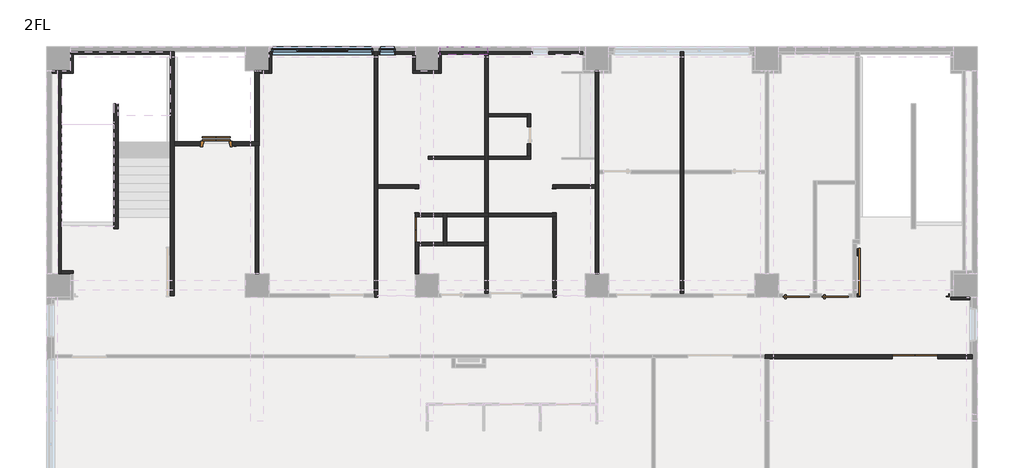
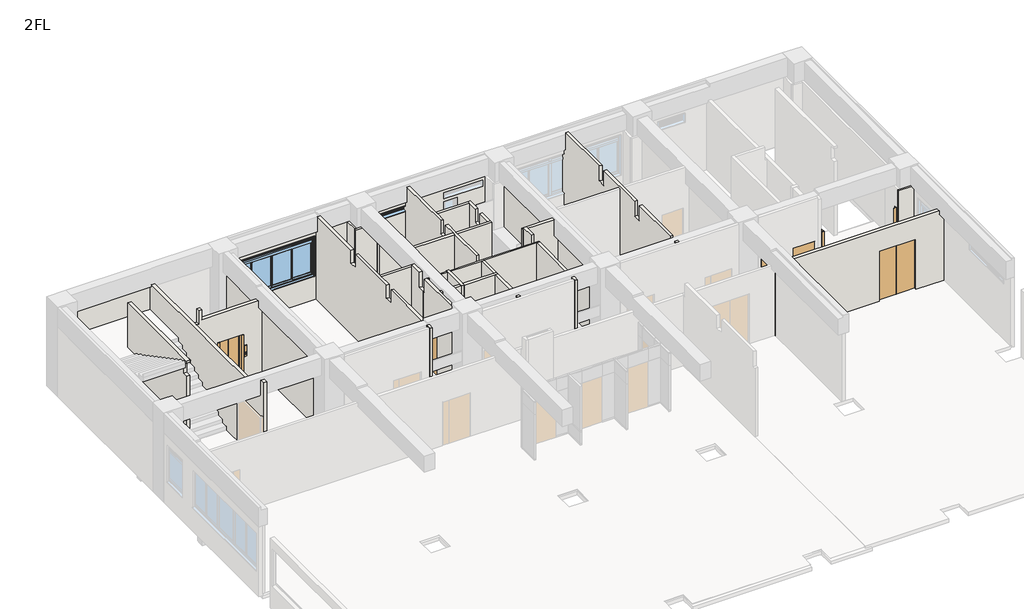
# One storey, part 3 of 7: 41 walls, 8 doors, 3 windows.
"""IFC4 building model written with IfcOpenShell, lengths in millimetres."""

from ifc_helpers import new_model, si_unit, frame, origin, place, context, project, spatial, polyline, outline, extrude, faceted_brep, transform, mapped, element, save
from components import door_9fa6e922, door_14d6dc4f, door_dd0264bc, door_f9cae23c, door_0812e9ce, sd13_d994cb3e, ag_07_7ad97628, aw5_d07c3508, aw9_efacfa99

model = new_model("IFC4")

# Units and contexts
model_context = context("Model", 3, world=origin())
ifc_project = project(units=[si_unit("LENGTHUNIT", "METRE", prefix="MILLI")], contexts=[model_context])

# Site, building, storey
site = spatial("IfcSite", under=ifc_project)
building = spatial("IfcBuilding", under=site)
storey = spatial("IfcBuildingStorey", under=building, Name="2FL", Elevation=4100.0)

# Doors
placement = place(None, origin())
door_shape = door_9fa6e922(model_context)
element("IfcDoor", 1, ObjectType="営_EVドア : EVドア", at=placement, inside=storey, context=model_context, shape_type="MappedRepresentation", body=[
    mapped(door_shape, transform((5560.0, 21000.0, 4100.0), x_axis=(1.0, 0.0, 0.0), y_axis=(0.0, 1.0, 0.0), z_axis=(0.0, 0.0, 1.0))),
])
door_2_shape = door_14d6dc4f(model_context)
element("IfcDoor", 2, ObjectType="営_三方枠 : S1_850*2000", at=placement, inside=storey, context=model_context, shape_type="MappedRepresentation", body=[
    mapped(door_2_shape, transform((12640.0, 18990.25, 4100.0), x_axis=(0.0, 1.0, 0.0), y_axis=(-1.0, 0.0, 0.0), z_axis=(0.0, 0.0, 1.0))),
])
element("IfcDoor", 3, ObjectType="営_三方枠 : S1_850*2000", at=placement, inside=storey, context=model_context, shape_type="MappedRepresentation", body=[
    mapped(door_2_shape, transform((17500.0, 18990.25, 4100.0), x_axis=(0.0, 1.0, 0.0), y_axis=(-1.0, 0.0, 0.0), z_axis=(0.0, 0.0, 1.0))),
])
door_3_shape = door_dd0264bc(model_context)
element("IfcDoor", 4, ObjectType="営_両開き扉 : SD3b 1600*2300", at=placement, inside=storey, context=model_context, shape_type="MappedRepresentation", body=[
    mapped(door_3_shape, transform((30235.0, 13485.0, 4100.0), x_axis=(1.0, 0.0, 0.0), y_axis=(0.0, 1.0, 0.0), z_axis=(0.0, 0.0, 1.0))),
])
door_4_shape = door_f9cae23c(model_context)
element("IfcDoor", 5, ObjectType="営_両開き扉 : LD5 900*2000", at=placement, inside=storey, context=model_context, shape_type="MappedRepresentation", body=[
    mapped(door_4_shape, transform((12640.0, 17975.0, 4100.0), x_axis=(0.0, 1.0, 0.0), y_axis=(-1.0, 0.0, 0.0), z_axis=(0.0, 0.0, 1.0))),
])
door_5_shape = door_0812e9ce(model_context)
element("IfcDoor", 6, ObjectType="営_片開き扉 : LD3 950*2000", at=placement, inside=storey, context=model_context, shape_type="MappedRepresentation", body=[
    mapped(door_5_shape, transform((27410.0, 15640.0, 4100.0), x_axis=(1.0, 0.0, 0.0), y_axis=(0.0, 1.0, 0.0), z_axis=(0.0, 0.0, 1.0))),
])
element("IfcDoor", 7, ObjectType="営_片開き扉 : SD4b 950*2000", at=placement, inside=storey, context=model_context, shape_type="MappedRepresentation", body=[
    mapped(door_5_shape, transform((26030.0, 15640.0, 4100.0), x_axis=(1.0, 0.0, 0.0), y_axis=(0.0, 1.0, 0.0), z_axis=(0.0, 0.0, 1.0))),
])
sd13_shape = sd13_d994cb3e(model_context)
element("IfcDoor", 8, ObjectType="営_随閉扉 B階段 2～4F : SD13", at=placement, inside=storey, context=model_context, shape_type="MappedRepresentation", body=[
    mapped(sd13_shape, transform((28100.0, 15640.0, 4100.0), x_axis=(0.0, -1.0, 0.0), y_axis=(1.0, 0.0, 0.0), z_axis=(0.0, 0.0, 1.0))),
])

# Walls
element("IfcWall", 9, ObjectType="(内壁)150_RC", at=placement, inside=storey, context=model_context, shape_type="Brep", body=[
    faceted_brep([(29435.0, 13560.0, 6400.0), (29435.0, 13560.0, 4100.0), (24925.0, 13560.0, 4100.0), (24925.0, 13560.0, 7200.0), (25225.0, 13560.0, 7200.0), (25225.0, 13560.0, 7350.0), (32050.0, 13560.0, 7350.0), (32050.0, 13560.0, 7200.0), (32160.0, 13560.0, 7200.0), (32250.0, 13560.0, 7200.0), (32250.0, 13560.0, 4100.0), (32160.0, 13560.0, 4100.0), (31035.0, 13560.0, 4100.0), (31035.0, 13560.0, 6400.0), (29435.0, 13410.0, 4100.0), (29435.0, 13410.0, 6400.0), (31035.0, 13410.0, 6400.0), (31035.0, 13410.0, 4100.0), (32250.0, 13410.0, 4100.0), (32250.0, 13410.0, 7200.0), (32050.0, 13410.0, 7200.0), (32050.0, 13410.0, 7350.0), (25225.0, 13410.0, 7350.0), (25225.0, 13410.0, 7200.0), (25075.0, 13410.0, 7200.0), (24925.0, 13410.0, 7200.0), (24925.0, 13410.0, 4100.0), (25075.0, 13410.0, 4100.0), (24925.0, 13440.0, 4100.0), (24925.0, 13440.0, 7200.0)], [[[0, 1, 2, 3, 4, 5, 6, 7, 8, 9, 10, 11, 12, 13]], [[14, 15, 16, 17, 18, 19, 20, 21, 22, 23, 24, 25, 26, 27]], [[10, 18, 17, 12, 11]], [[26, 28, 2, 1, 14, 27]], [[2, 28, 26, 25, 29, 3]], [[1, 0, 15, 14]], [[13, 12, 17, 16]], [[0, 13, 16, 15]], [[4, 23, 22, 5]], [[23, 4, 3, 29, 25, 24]], [[7, 20, 19, 9, 8]], [[20, 7, 6, 21]], [[6, 5, 22, 21]], [[18, 10, 9, 19]]]),
])
element("IfcWall", 10, ObjectType="(内壁)W4", at=placement, inside=storey, context=model_context, shape_type="Brep", body=[
    faceted_brep([(18940.0, 23580.0, 4100.0), (18940.0, 23490.0, 4100.0), (18940.0, 19550.0, 4100.0), (18940.0, 19430.0, 4100.0), (18940.0, 16420.0, 4100.0), (18940.0, 16420.0, 7200.0), (18940.0, 19430.0, 7200.0), (18940.0, 19550.0, 7200.0), (18940.0, 23490.0, 7200.0), (18940.0, 23580.0, 7200.0), (19060.0, 16420.0, 4100.0), (19060.0, 19940.0, 4100.0), (19060.0, 20060.0, 4100.0), (19060.0, 23490.0, 4100.0), (19060.0, 23580.0, 4100.0), (19060.0, 23580.0, 7200.0), (19060.0, 23490.0, 7200.0), (19060.0, 20060.0, 7200.0), (19060.0, 19940.0, 7200.0), (19060.0, 16420.0, 7200.0)], [[[0, 1, 2, 3, 4, 5, 6, 7, 8, 9]], [[10, 11, 12, 13, 14, 15, 16, 17, 18, 19]], [[10, 4, 3, 2, 1, 0, 14, 13, 12, 11]], [[4, 10, 19, 5]], [[14, 0, 9, 15]], [[9, 8, 7, 6, 5, 19, 18, 17, 16, 15]]]),
])
element("IfcWall", 11, ObjectType="(内壁)W3", at=placement, inside=storey, context=model_context, shape_type="Brep", body=[
    faceted_brep([(21940.0, 24250.0, 4100.0), (21940.0, 20060.0, 4100.0), (21940.0, 19940.0, 4100.0), (21940.0, 15700.0, 4100.0), (21940.0, 15700.0, 8040.0), (21940.0, 15825.0, 8040.0), (21940.0, 15825.0, 7250.0), (21940.0, 16175.0, 7250.0), (21940.0, 16175.0, 8040.0), (21940.0, 18495.0, 8040.0), (21940.0, 18495.0, 7350.0), (21940.0, 18845.0, 7350.0), (21940.0, 18845.0, 8040.0), (21940.0, 21165.0, 8040.0), (21940.0, 21165.0, 7350.0), (21940.0, 21515.0, 7350.0), (21940.0, 21515.0, 8040.0), (21940.0, 24050.0, 8040.0), (21940.0, 24050.0, 7250.0), (21940.0, 24250.0, 7250.0), (22060.0, 15700.0, 4100.0), (22060.0, 19940.0, 4100.0), (22060.0, 20060.0, 4100.0), (22060.0, 24250.0, 4100.0), (22060.0, 24250.0, 7250.0), (22060.0, 24050.0, 7250.0), (22060.0, 24050.0, 8040.0), (22060.0, 21515.0, 8040.0), (22060.0, 21515.0, 7350.0), (22060.0, 21165.0, 7350.0), (22060.0, 21165.0, 8040.0), (22060.0, 18845.0, 8040.0), (22060.0, 18845.0, 7350.0), (22060.0, 18495.0, 7350.0), (22060.0, 18495.0, 8040.0), (22060.0, 16175.0, 8040.0), (22060.0, 16175.0, 7250.0), (22060.0, 15825.0, 7250.0), (22060.0, 15825.0, 8040.0), (22060.0, 15700.0, 8040.0)], [[[0, 1, 2, 3, 4, 5, 6, 7, 8, 9, 10, 11, 12, 13, 14, 15, 16, 17, 18, 19]], [[20, 21, 22, 23, 24, 25, 26, 27, 28, 29, 30, 31, 32, 33, 34, 35, 36, 37, 38, 39]], [[3, 2, 1, 0, 23, 22, 21, 20]], [[4, 39, 38, 5]], [[8, 35, 34, 9]], [[26, 17, 16, 27]], [[12, 31, 30, 13]], [[23, 0, 19, 24]], [[4, 3, 20, 39]], [[37, 6, 5, 38]], [[6, 37, 36, 7]], [[7, 36, 35, 8]], [[25, 18, 17, 26]], [[18, 25, 24, 19]], [[33, 10, 9, 34]], [[10, 33, 32, 11]], [[11, 32, 31, 12]], [[29, 14, 13, 30]], [[14, 29, 28, 15]], [[15, 28, 27, 16]]]),
])
element("IfcWall", 12, ObjectType="(内壁)150_RC", at=placement, inside=storey, context=model_context, shape_type="Brep", body=[
    faceted_brep([(3925.0, 24250.0, 4100.0), (3925.0, 15635.0, 4100.0), (3925.0, 15635.0, 7950.0), (3925.0, 15825.0, 7950.0), (3925.0, 15825.0, 7350.0), (3925.0, 24050.0, 7350.0), (3925.0, 24050.0, 7250.0), (3925.0, 24250.0, 7250.0), (4075.0, 15635.0, 4100.0), (4075.0, 20925.0, 4100.0), (4075.0, 21075.0, 4100.0), (4075.0, 24250.0, 4100.0), (4075.0, 24250.0, 7250.0), (4075.0, 24050.0, 7250.0), (4075.0, 24050.0, 7350.0), (4075.0, 21075.0, 7350.0), (4075.0, 20925.0, 7350.0), (4075.0, 15825.0, 7350.0), (4075.0, 15825.0, 7950.0), (4075.0, 15635.0, 7950.0)], [[[0, 1, 2, 3, 4, 5, 6, 7]], [[8, 9, 10, 11, 12, 13, 14, 15, 16, 17, 18, 19]], [[1, 0, 11, 10, 9, 8]], [[2, 1, 8, 19]], [[2, 19, 18, 3]], [[11, 0, 7, 12]], [[13, 6, 5, 14]], [[6, 13, 12, 7]], [[4, 17, 16, 15, 14, 5]], [[17, 4, 3, 18]]]),
])
element("IfcWall", 13, ObjectType="(内壁)150_RC", at=placement, inside=storey, context=model_context, shape_type="Brep", body=[
    faceted_brep([(7075.0, 20925.0, 7200.0), (7060.0, 20925.0, 7200.0), (6940.0, 20925.0, 7200.0), (6775.0, 20925.0, 7200.0), (6775.0, 20925.0, 7500.0), (4306.3, 20925.0, 7500.0), (4306.3, 20925.0, 7950.0), (4175.0, 20925.0, 7950.0), (4175.0, 20925.0, 7350.0), (4075.0, 20925.0, 7350.0), (4075.0, 20925.0, 4100.0), (5000.0, 20925.0, 4100.0), (5000.0, 20925.0, 6200.0), (6120.0, 20925.0, 6200.0), (6120.0, 20925.0, 4100.0), (6940.0, 20925.0, 4100.0), (7060.0, 20925.0, 4100.0), (7075.0, 20925.0, 4100.0), (6775.0, 21075.0, 7200.0), (6925.0, 21075.0, 7200.0), (7075.0, 21075.0, 7200.0), (7075.0, 21075.0, 4100.0), (6925.0, 21075.0, 4100.0), (6120.0, 21075.0, 4100.0), (6120.0, 21075.0, 6200.0), (5000.0, 21075.0, 6200.0), (5000.0, 21075.0, 4100.0), (4075.0, 21075.0, 4100.0), (4075.0, 21075.0, 7350.0), (4175.0, 21075.0, 7350.0), (4175.0, 21075.0, 7950.0), (4306.3, 21075.0, 7950.0), (4306.3, 21075.0, 7500.0), (6775.0, 21075.0, 7500.0)], [[[0, 1, 2, 3, 4, 5, 6, 7, 8, 9, 10, 11, 12, 13, 14, 15, 16, 17]], [[18, 19, 20, 21, 22, 23, 24, 25, 26, 27, 28, 29, 30, 31, 32, 33]], [[21, 17, 16, 15, 14, 23, 22]], [[10, 27, 26, 11]], [[6, 31, 30, 7]], [[17, 21, 20, 0]], [[27, 10, 9, 28]], [[18, 3, 2, 1, 0, 20, 19]], [[3, 18, 33, 4]], [[26, 25, 12, 11]], [[24, 23, 14, 13]], [[25, 24, 13, 12]], [[5, 32, 31, 6]], [[32, 5, 4, 33]], [[29, 8, 7, 30]], [[8, 29, 28, 9]]]),
])
element("IfcWall", 14, ObjectType="(内壁)150_RC", at=placement, inside=storey, context=model_context, shape_type="Brep", body=[
    faceted_brep([(7075.0, 21075.0, 4100.0), (7075.0, 23490.0, 4100.0), (7075.0, 23580.0, 4100.0), (7075.0, 23580.0, 7200.0), (7075.0, 23490.0, 7200.0), (7075.0, 21075.0, 7200.0), (6925.0, 23580.0, 4100.0), (6925.0, 21075.0, 4100.0), (6925.0, 21075.0, 7200.0), (6925.0, 23580.0, 7200.0)], [[[0, 1, 2, 3, 4, 5]], [[6, 7, 8, 9]], [[0, 7, 6, 2, 1]], [[7, 0, 5, 8]], [[2, 6, 9, 3]], [[5, 4, 3, 9, 8]]]),
])
element("IfcWall", 15, ObjectType="(内壁)W4", at=placement, inside=storey, context=model_context, shape_type="SweptSolid", body=[
    extrude(outline(polyline([(6940.0, 20925.0), (7060.0, 20925.0), (7060.0, 16420.0), (6940.0, 16420.0), (6940.0, 20925.0)])), frame((0.0, 0.0, 4100.0), z_axis=(0.0, 0.0, 1.0), x_axis=(1.0, 0.0, 0.0)), (0.0, 0.0, 1.0), 3100.0),
])
element("IfcWall", 16, ObjectType="(内壁)W4", at=placement, inside=storey, context=model_context, shape_type="Brep", body=[
    faceted_brep([(11140.0, 24250.0, 4100.0), (11140.0, 15700.0, 4100.0), (11140.0, 15580.0, 4100.0), (11140.0, 15580.0, 7950.0), (11140.0, 15700.0, 7950.0), (11140.0, 15825.0, 7950.0), (11140.0, 15825.0, 7250.0), (11140.0, 16175.0, 7250.0), (11140.0, 16175.0, 7950.0), (11140.0, 18495.0, 7950.0), (11140.0, 18495.0, 7350.0), (11140.0, 18845.0, 7350.0), (11140.0, 18845.0, 7950.0), (11140.0, 21165.0, 7950.0), (11140.0, 21165.0, 7350.0), (11140.0, 21515.0, 7350.0), (11140.0, 21515.0, 7950.0), (11140.0, 24050.0, 7950.0), (11140.0, 24050.0, 7250.0), (11140.0, 24250.0, 7250.0), (11260.0, 15580.0, 4100.0), (11260.0, 19430.0, 4100.0), (11260.0, 19550.0, 4100.0), (11260.0, 24250.0, 4100.0), (11260.0, 24250.0, 7250.0), (11260.0, 24050.0, 7250.0), (11260.0, 24050.0, 7950.0), (11260.0, 21515.0, 7950.0), (11260.0, 21515.0, 7350.0), (11260.0, 21165.0, 7350.0), (11260.0, 21165.0, 7950.0), (11260.0, 19550.0, 7950.0), (11260.0, 19430.0, 7950.0), (11260.0, 18845.0, 7950.0), (11260.0, 18845.0, 7350.0), (11260.0, 18495.0, 7350.0), (11260.0, 18495.0, 7950.0), (11260.0, 16175.0, 7950.0), (11260.0, 16175.0, 7250.0), (11260.0, 15825.0, 7250.0), (11260.0, 15825.0, 7950.0), (11260.0, 15580.0, 7950.0), (11200.0, 15825.0, 7950.0), (11200.0, 16175.0, 7950.0), (11200.0, 18495.0, 7950.0), (11200.0, 24050.0, 7950.0), (11200.0, 21515.0, 7950.0), (11200.0, 18845.0, 7950.0), (11200.0, 21165.0, 7950.0)], [[[0, 1, 2, 3, 4, 5, 6, 7, 8, 9, 10, 11, 12, 13, 14, 15, 16, 17, 18, 19]], [[20, 21, 22, 23, 24, 25, 26, 27, 28, 29, 30, 31, 32, 33, 34, 35, 36, 37, 38, 39, 40, 41]], [[2, 1, 0, 23, 22, 21, 20]], [[5, 4, 3, 41, 40, 42]], [[8, 43, 37, 36, 44, 9]], [[26, 45, 17, 16, 46, 27]], [[12, 47, 33, 32, 31, 30, 48, 13]], [[23, 0, 19, 24]], [[39, 6, 5, 42, 40]], [[6, 39, 38, 7]], [[7, 38, 37, 43, 8]], [[25, 18, 17, 45, 26]], [[18, 25, 24, 19]], [[35, 10, 9, 44, 36]], [[10, 35, 34, 11]], [[11, 34, 33, 47, 12]], [[29, 14, 13, 48, 30]], [[14, 29, 28, 15]], [[15, 28, 27, 46, 16]], [[3, 2, 20, 41]]]),
])
element("IfcWall", 17, ObjectType="(内壁)W4", at=placement, inside=storey, context=model_context, shape_type="Brep", body=[
    faceted_brep([(15040.0, 24250.0, 4100.0), (15040.0, 20570.0, 4100.0), (15040.0, 20450.0, 4100.0), (15040.0, 18550.0, 4100.0), (15040.0, 18550.0, 7350.0), (15040.0, 18845.0, 7350.0), (15040.0, 18845.0, 7950.0), (15040.0, 20450.0, 7950.0), (15040.0, 20570.0, 7950.0), (15040.0, 21165.0, 7950.0), (15040.0, 21165.0, 7350.0), (15040.0, 21515.0, 7350.0), (15040.0, 21515.0, 7950.0), (15040.0, 24050.0, 7950.0), (15040.0, 24050.0, 7250.0), (15040.0, 24250.0, 7250.0), (15160.0, 18550.0, 4100.0), (15160.0, 20450.0, 4100.0), (15160.0, 20570.0, 4100.0), (15160.0, 21950.0, 4100.0), (15160.0, 22070.0, 4100.0), (15160.0, 24250.0, 4100.0), (15160.0, 24250.0, 7250.0), (15160.0, 24050.0, 7250.0), (15160.0, 24050.0, 7950.0), (15160.0, 22070.0, 7950.0), (15160.0, 21950.0, 7950.0), (15160.0, 21515.0, 7950.0), (15160.0, 21515.0, 7350.0), (15160.0, 21165.0, 7350.0), (15160.0, 21165.0, 7950.0), (15160.0, 20570.0, 7950.0), (15160.0, 20450.0, 7950.0), (15160.0, 18845.0, 7950.0), (15160.0, 18845.0, 7350.0), (15160.0, 18550.0, 7350.0)], [[[0, 1, 2, 3, 4, 5, 6, 7, 8, 9, 10, 11, 12, 13, 14, 15]], [[16, 17, 18, 19, 20, 21, 22, 23, 24, 25, 26, 27, 28, 29, 30, 31, 32, 33, 34, 35]], [[3, 2, 1, 0, 21, 20, 19, 18, 17, 16]], [[24, 13, 12, 27, 26, 25]], [[6, 33, 32, 31, 30, 9, 8, 7]], [[21, 0, 15, 22]], [[23, 14, 13, 24]], [[14, 23, 22, 15]], [[34, 5, 4, 35]], [[5, 34, 33, 6]], [[29, 10, 9, 30]], [[10, 29, 28, 11]], [[11, 28, 27, 12]], [[3, 16, 35, 4]]]),
])
element("IfcWall", 18, ObjectType="(内壁)W4", at=placement, inside=storey, context=model_context, shape_type="Brep", body=[
    faceted_brep([(12700.0, 17525.0, 4100.0), (12700.0, 17525.0, 6100.0), (12700.0, 18425.0, 6100.0), (12700.0, 18425.0, 4100.0), (12700.0, 18430.0, 4100.0), (12700.0, 18550.0, 4100.0), (12700.0, 18550.0, 7350.0), (12700.0, 18495.0, 7350.0), (12700.0, 18495.0, 7950.0), (12700.0, 18430.0, 7950.0), (12700.0, 17520.0, 7950.0), (12700.0, 17400.0, 7950.0), (12700.0, 16420.0, 7950.0), (12700.0, 16420.0, 4100.0), (12700.0, 17400.0, 4100.0), (12700.0, 17520.0, 4100.0), (12580.0, 17525.0, 6100.0), (12580.0, 17525.0, 4100.0), (12580.0, 16420.0, 4100.0), (12580.0, 16420.0, 7950.0), (12580.0, 18495.0, 7950.0), (12580.0, 18495.0, 7350.0), (12580.0, 18550.0, 7350.0), (12580.0, 18550.0, 4100.0), (12580.0, 18425.0, 4100.0), (12580.0, 18425.0, 6100.0)], [[[0, 1, 2, 3, 4, 5, 6, 7, 8, 9, 10, 11, 12, 13, 14, 15]], [[16, 17, 18, 19, 20, 21, 22, 23, 24, 25]], [[17, 0, 15, 14, 13, 18]], [[23, 5, 4, 3, 24]], [[19, 12, 11, 10, 9, 8, 20]], [[5, 23, 22, 6]], [[17, 16, 1, 0]], [[25, 24, 3, 2]], [[16, 25, 2, 1]], [[13, 12, 19, 18]], [[7, 21, 20, 8]], [[21, 7, 6, 22]]]),
])
element("IfcWall", 19, ObjectType="(内壁)W4", at=placement, inside=storey, context=model_context, shape_type="Brep", body=[
    faceted_brep([(12700.0, 18430.0, 4100.0), (13570.0, 18430.0, 4100.0), (13570.0, 18430.0, 7950.0), (13225.0, 18430.0, 7950.0), (13225.0, 18430.0, 7200.0), (12775.0, 18430.0, 7200.0), (12775.0, 18430.0, 7950.0), (12700.0, 18430.0, 7950.0), (13570.0, 18550.0, 4100.0), (12700.0, 18550.0, 4100.0), (12700.0, 18550.0, 7350.0), (12775.0, 18550.0, 7350.0), (12775.0, 18550.0, 7200.0), (13225.0, 18550.0, 7200.0), (13225.0, 18550.0, 7350.0), (13570.0, 18550.0, 7350.0), (12775.0, 18495.0, 7950.0), (12700.0, 18495.0, 7950.0), (13225.0, 18495.0, 7950.0), (13570.0, 18495.0, 7950.0), (12700.0, 18495.0, 7350.0), (13225.0, 18495.0, 7350.0), (12775.0, 18495.0, 7350.0), (13570.0, 18495.0, 7350.0)], [[[0, 1, 2, 3, 4, 5, 6, 7]], [[8, 9, 10, 11, 12, 13, 14, 15]], [[1, 0, 9, 8]], [[6, 16, 17, 7]], [[18, 3, 2, 19]], [[0, 7, 17, 20, 10, 9]], [[13, 4, 3, 18, 21, 14]], [[4, 13, 12, 5]], [[5, 12, 11, 22, 16, 6]], [[18, 19, 23, 21]], [[15, 14, 21, 23]], [[22, 20, 17, 16]], [[20, 22, 11, 10]], [[2, 1, 8, 15, 23, 19]]]),
])
element("IfcWall", 20, ObjectType="(内壁)W4", at=placement, inside=storey, context=model_context, shape_type="Brep", body=[
    faceted_brep([(17440.0, 18430.0, 4100.0), (17440.0, 15700.0, 4100.0), (17440.0, 15580.0, 4100.0), (17440.0, 15580.0, 7950.0), (17440.0, 15700.0, 7950.0), (17440.0, 15825.0, 7950.0), (17440.0, 15825.0, 7250.0), (17440.0, 16175.0, 7250.0), (17440.0, 16175.0, 7950.0), (17440.0, 18430.0, 7950.0), (17560.0, 15580.0, 4100.0), (17560.0, 18430.0, 4100.0), (17560.0, 18430.0, 7950.0), (17560.0, 16175.0, 7950.0), (17560.0, 16175.0, 7250.0), (17560.0, 15825.0, 7250.0), (17560.0, 15825.0, 7950.0), (17560.0, 15580.0, 7950.0)], [[[0, 1, 2, 3, 4, 5, 6, 7, 8, 9]], [[10, 11, 12, 13, 14, 15, 16, 17]], [[2, 1, 0, 11, 10]], [[12, 9, 8, 13]], [[3, 17, 16, 5, 4]], [[0, 9, 12, 11]], [[15, 6, 5, 16]], [[6, 15, 14, 7]], [[7, 14, 13, 8]], [[3, 2, 10, 17]]]),
])
element("IfcWall", 21, ObjectType="(内壁)W4", at=placement, inside=storey, context=model_context, shape_type="SweptSolid", body=[
    extrude(outline(polyline([(4100.0, 12700.0), (4100.0, 13570.0), (7950.0, 13570.0), (7950.0, 13225.0), (7200.0, 13225.0), (7200.0, 12775.0), (7950.0, 12775.0), (7950.0, 12700.0), (4100.0, 12700.0)])), frame((0.0, 17400.0, 0.0), z_axis=(0.0, 1.0, 0.0), x_axis=(0.0, 0.0, 1.0)), (0.0, 0.0, 1.0), 120.0),
])
element("IfcWall", 22, ObjectType="(内壁)W1", at=placement, inside=storey, context=model_context, shape_type="Brep", body=[
    faceted_brep([(13690.0, 17400.0, 4100.0), (13690.0, 17520.0, 4100.0), (13690.0, 18430.0, 4100.0), (13690.0, 18550.0, 4100.0), (13690.0, 18550.0, 7350.0), (13690.0, 18550.0, 7950.0), (13690.0, 18495.0, 7950.0), (13690.0, 18430.0, 7950.0), (13690.0, 17520.0, 7950.0), (13690.0, 17400.0, 7950.0), (13570.0, 17400.0, 4100.0), (13570.0, 17400.0, 7950.0), (13570.0, 17520.0, 7950.0), (13570.0, 18430.0, 7950.0), (13570.0, 18495.0, 7950.0), (13570.0, 18550.0, 7950.0), (13570.0, 18550.0, 7350.0), (13570.0, 18550.0, 4100.0), (13570.0, 18430.0, 4100.0), (13570.0, 17520.0, 4100.0)], [[[0, 1, 2, 3, 4, 5, 6, 7, 8, 9]], [[10, 11, 12, 13, 14, 15, 16, 17, 18, 19]], [[3, 2, 1, 0, 10, 19, 18, 17]], [[9, 8, 7, 6, 5, 15, 14, 13, 12, 11]], [[5, 4, 3, 17, 16, 15]], [[0, 9, 11, 10]]]),
])
element("IfcWall", 23, ObjectType="(内壁)W4", at=placement, inside=storey, context=model_context, shape_type="SweptSolid", body=[
    extrude(outline(polyline([(4100.0, 13040.0), (4100.0, 15040.0), (7950.0, 15040.0), (7950.0, 13225.0), (7200.0, 13225.0), (7200.0, 13040.0), (4100.0, 13040.0)])), frame((0.0, 20450.0, 0.0), z_axis=(0.0, 1.0, 0.0), x_axis=(0.0, 0.0, 1.0)), (0.0, 0.0, 1.0), 120.0),
])
element("IfcWall", 24, ObjectType="(内壁)W3", at=placement, inside=storey, context=model_context, shape_type="Brep", body=[
    faceted_brep([(16660.0, 20570.0, 7950.0), (16660.0, 20570.0, 4100.0), (16660.0, 21010.0, 4100.0), (16660.0, 21010.0, 6100.0), (16660.0, 21610.0, 6100.0), (16660.0, 21610.0, 4100.0), (16660.0, 22070.0, 4100.0), (16660.0, 22070.0, 7950.0), (16660.0, 21515.0, 7950.0), (16660.0, 21515.0, 7350.0), (16660.0, 21165.0, 7350.0), (16660.0, 21165.0, 7950.0), (16540.0, 20570.0, 4100.0), (16540.0, 20570.0, 7950.0), (16540.0, 21165.0, 7950.0), (16540.0, 21165.0, 7350.0), (16540.0, 21515.0, 7350.0), (16540.0, 21515.0, 7950.0), (16540.0, 21950.0, 7950.0), (16540.0, 22070.0, 7950.0), (16540.0, 22070.0, 4100.0), (16540.0, 21950.0, 4100.0), (16540.0, 21610.0, 4100.0), (16540.0, 21610.0, 6100.0), (16540.0, 21010.0, 6100.0), (16540.0, 21010.0, 4100.0)], [[[0, 1, 2, 3, 4, 5, 6, 7, 8, 9, 10, 11]], [[12, 13, 14, 15, 16, 17, 18, 19, 20, 21, 22, 23, 24, 25]], [[1, 12, 25, 2]], [[20, 6, 5, 22, 21]], [[13, 0, 11, 14]], [[7, 19, 18, 17, 8]], [[1, 0, 13, 12]], [[7, 6, 20, 19]], [[25, 24, 3, 2]], [[23, 22, 5, 4]], [[24, 23, 4, 3]], [[10, 15, 14, 11]], [[15, 10, 9, 16]], [[16, 9, 8, 17]]]),
])
element("IfcWall", 25, ObjectType="(内壁)W3", at=placement, inside=storey, context=model_context, shape_type="SweptSolid", body=[
    extrude(outline(polyline([(15160.0, 22070.0), (16540.0, 22070.0), (16540.0, 21950.0), (15160.0, 21950.0), (15160.0, 22070.0)])), frame((0.0, 0.0, 4100.0), z_axis=(0.0, 0.0, 1.0), x_axis=(1.0, 0.0, 0.0)), (0.0, 0.0, 1.0), 3850.0),
])
element("IfcWall", 26, ObjectType="(内壁)W4", at=placement, inside=storey, context=model_context, shape_type="Brep", body=[
    faceted_brep([(17440.0, 19430.0, 4100.0), (17560.0, 19430.0, 4100.0), (18940.0, 19430.0, 4100.0), (18940.0, 19430.0, 7200.0), (18775.0, 19430.0, 7200.0), (18775.0, 19430.0, 7950.0), (17440.0, 19430.0, 7950.0), (18940.0, 19550.0, 4100.0), (17440.0, 19550.0, 4100.0), (17440.0, 19550.0, 7950.0), (18775.0, 19550.0, 7950.0), (18775.0, 19550.0, 7200.0), (18940.0, 19550.0, 7200.0)], [[[0, 1, 2, 3, 4, 5, 6]], [[7, 8, 9, 10, 11, 12]], [[2, 1, 0, 8, 7]], [[9, 6, 5, 10]], [[2, 7, 12, 3]], [[11, 4, 3, 12]], [[4, 11, 10, 5]], [[0, 6, 9, 8]]]),
])
element("IfcWall", 27, ObjectType="(内壁)W4", at=placement, inside=storey, context=model_context, shape_type="Brep", body=[
    faceted_brep([(11260.0, 19430.0, 4100.0), (12580.0, 19430.0, 4100.0), (12700.0, 19430.0, 4100.0), (12700.0, 19430.0, 7950.0), (11260.0, 19430.0, 7950.0), (11260.0, 19550.0, 4100.0), (11260.0, 19550.0, 7950.0), (12700.0, 19550.0, 7950.0), (12700.0, 19550.0, 4100.0)], [[[0, 1, 2, 3, 4]], [[5, 6, 7, 8]], [[2, 1, 0, 5, 8]], [[4, 3, 7, 6]], [[0, 4, 6, 5]], [[3, 2, 8, 7]]]),
])
element("IfcWall", 28, ObjectType="(内壁)120_部屋境界OFF", at=placement, inside=storey, context=model_context, shape_type="Brep", body=[
    faceted_brep([(12700.0, 18550.0, 4100.0), (12700.0, 18555.25, 4100.0), (12700.0, 18555.25, 6110.0), (12700.0, 19425.25, 6110.0), (12700.0, 19425.25, 4100.0), (12700.0, 19430.0, 4100.0), (12700.0, 19430.0, 7950.0), (12700.0, 19430.0, 8050.0), (12700.0, 18845.0, 8050.0), (12700.0, 18845.0, 7350.0), (12700.0, 18550.0, 7350.0), (12580.0, 18555.25, 4100.0), (12580.0, 18550.0, 4100.0), (12580.0, 18550.0, 7350.0), (12580.0, 18845.0, 7350.0), (12580.0, 18845.0, 8050.0), (12580.0, 19430.0, 8050.0), (12580.0, 19430.0, 4100.0), (12580.0, 19425.25, 4100.0), (12580.0, 19425.25, 6110.0), (12580.0, 18555.25, 6110.0)], [[[0, 1, 2, 3, 4, 5, 6, 7, 8, 9, 10]], [[11, 12, 13, 14, 15, 16, 17, 18, 19, 20]], [[12, 11, 1, 0]], [[5, 4, 18, 17]], [[7, 16, 15, 8]], [[12, 0, 10, 13]], [[20, 2, 1, 11]], [[2, 20, 19, 3]], [[3, 19, 18, 4]], [[7, 6, 5, 17, 16]], [[9, 14, 13, 10]], [[14, 9, 8, 15]]]),
])
element("IfcWall", 29, ObjectType="(内壁)120_部屋境界OFF", at=placement, inside=storey, context=model_context, shape_type="Brep", body=[
    faceted_brep([(17560.0, 18550.0, 4100.0), (17560.0, 18555.25, 4100.0), (17560.0, 18555.25, 6110.0), (17560.0, 19425.25, 6110.0), (17560.0, 19425.25, 4100.0), (17560.0, 19430.0, 4100.0), (17560.0, 19430.0, 8050.0), (17560.0, 18845.0, 8050.0), (17560.0, 18845.0, 7350.0), (17560.0, 18550.0, 7350.0), (17440.0, 18555.25, 4100.0), (17440.0, 18550.0, 4100.0), (17440.0, 18550.0, 7350.0), (17440.0, 18845.0, 7350.0), (17440.0, 18845.0, 8050.0), (17440.0, 19430.0, 8050.0), (17440.0, 19430.0, 7950.0), (17440.0, 19430.0, 4100.0), (17440.0, 19425.25, 4100.0), (17440.0, 19425.25, 6110.0), (17440.0, 18555.25, 6110.0)], [[[0, 1, 2, 3, 4, 5, 6, 7, 8, 9]], [[10, 11, 12, 13, 14, 15, 16, 17, 18, 19, 20]], [[11, 10, 1, 0]], [[5, 4, 18, 17]], [[6, 15, 14, 7]], [[11, 0, 9, 12]], [[6, 5, 17, 16, 15]], [[20, 2, 1, 10]], [[2, 20, 19, 3]], [[3, 19, 18, 4]], [[8, 13, 12, 9]], [[13, 8, 7, 14]]]),
])
element("IfcWall", 30, ObjectType="(内壁)W3", at=placement, inside=storey, context=model_context, shape_type="Brep", body=[
    faceted_brep([(15160.0, 20450.0, 4100.0), (16660.0, 20450.0, 4100.0), (16660.0, 20450.0, 7950.0), (15160.0, 20450.0, 7950.0), (15160.0, 20570.0, 4100.0), (15160.0, 20570.0, 7950.0), (16540.0, 20570.0, 7950.0), (16660.0, 20570.0, 7950.0), (16660.0, 20570.0, 4100.0), (16540.0, 20570.0, 4100.0)], [[[0, 1, 2, 3]], [[4, 5, 6, 7, 8, 9]], [[1, 0, 4, 9, 8]], [[3, 2, 7, 6, 5]], [[2, 1, 8, 7]], [[0, 3, 5, 4]]]),
])
element("IfcWall", 31, ObjectType="(内壁)150_RC", at=placement, inside=storey, context=model_context, shape_type="Brep", body=[
    faceted_brep([(2095.0, 18005.0, 4100.0), (2095.0, 22410.0, 4100.0), (2095.0, 22410.0, 8200.0), (2095.0, 18005.0, 8200.0), (2095.0, 18005.0, 8100.0), (2095.0, 18225.0, 8100.0), (2095.0, 18225.0, 8040.0), (2095.0, 18225.0, 7500.0), (2095.0, 18005.0, 7500.0), (1945.0, 22410.0, 4100.0), (1945.0, 18005.0, 4100.0), (1945.0, 18005.0, 7500.0), (1945.0, 18225.0, 7500.0), (1945.0, 18225.0, 8100.0), (1945.0, 18100.0, 8100.0), (1945.0, 18005.0, 8100.0), (1945.0, 18005.0, 8200.0), (1945.0, 22410.0, 8200.0)], [[[0, 1, 2, 3, 4, 5, 6, 7, 8]], [[9, 10, 11, 12, 13, 14, 15, 16, 17]], [[1, 0, 10, 9]], [[2, 1, 9, 17]], [[3, 2, 17, 16]], [[3, 16, 15, 4]], [[10, 0, 8, 11]], [[7, 12, 11, 8]], [[12, 7, 6, 5, 13]], [[13, 5, 4, 15, 14]]]),
])
element("IfcWall", 32, ObjectType="(内壁)W5", at=placement, inside=storey, context=model_context, shape_type="Brep", body=[
    faceted_brep([(32160.0, 15580.0, 4100.0), (31580.0, 15580.0, 4100.0), (31490.0, 15580.0, 4100.0), (31490.0, 15580.0, 7200.0), (31580.0, 15580.0, 7200.0), (32160.0, 15580.0, 7200.0), (32160.0, 15490.0, 4100.0), (32160.0, 15490.0, 7200.0), (31490.0, 15490.0, 7200.0), (31490.0, 15490.0, 4100.0)], [[[0, 1, 2, 3, 4, 5]], [[6, 7, 8, 9]], [[2, 1, 0, 6, 9]], [[5, 4, 3, 8, 7]], [[0, 5, 7, 6]], [[3, 2, 9, 8]]]),
])
element("IfcWall", 33, ObjectType="(内壁)W5", at=placement, inside=storey, context=model_context, shape_type="Brep", body=[
    faceted_brep([(18490.0, 24250.0, 4100.0), (13420.0, 24250.0, 4100.0), (13420.0, 24250.0, 7200.0), (18490.0, 24250.0, 7200.0), (16710.0, 24250.0, 6620.0), (16710.0, 24250.0, 5165.0), (17290.0, 24250.0, 5165.0), (17290.0, 24250.0, 6620.0), (18380.0, 24250.0, 6765.0), (18380.0, 24250.0, 7035.0), (16700.0, 24250.0, 7035.0), (16700.0, 24250.0, 6765.0), (15140.0, 24250.0, 6765.0), (15140.0, 24250.0, 7035.0), (13460.0, 24250.0, 7035.0), (13460.0, 24250.0, 6765.0), (13420.0, 24160.0, 4100.0), (13510.0, 24160.0, 4100.0), (18490.0, 24160.0, 4100.0), (18490.0, 24160.0, 7200.0), (13510.0, 24160.0, 7200.0), (13420.0, 24160.0, 7200.0), (16710.0, 24160.0, 5165.0), (16710.0, 24160.0, 6620.0), (17290.0, 24160.0, 6620.0), (17290.0, 24160.0, 5165.0), (18380.0, 24160.0, 7035.0), (18380.0, 24160.0, 6765.0), (16700.0, 24160.0, 6765.0), (16700.0, 24160.0, 7035.0), (15140.0, 24160.0, 7035.0), (15140.0, 24160.0, 6765.0), (13460.0, 24160.0, 6765.0), (13460.0, 24160.0, 7035.0)], [[[0, 1, 2, 3], [4, 5, 6, 7], [8, 9, 10, 11], [12, 13, 14, 15]], [[16, 17, 18, 19, 20, 21], [22, 23, 24, 25], [26, 27, 28, 29], [30, 31, 32, 33]], [[1, 0, 18, 17, 16]], [[3, 2, 21, 20, 19]], [[0, 3, 19, 18]], [[2, 1, 16, 21]], [[22, 5, 4, 23]], [[24, 7, 6, 25]], [[5, 22, 25, 6]], [[23, 4, 7, 24]], [[26, 9, 8, 27]], [[28, 11, 10, 29]], [[27, 8, 11, 28]], [[9, 26, 29, 10]], [[30, 13, 12, 31]], [[32, 15, 14, 33]], [[31, 12, 15, 32]], [[13, 30, 33, 14]]]),
])
element("IfcWall", 34, ObjectType="(内壁)W5", at=placement, inside=storey, context=model_context, shape_type="Brep", body=[
    faceted_brep([(13420.0, 24160.0, 4100.0), (13420.0, 23580.0, 4100.0), (13420.0, 23490.0, 4100.0), (13420.0, 23490.0, 7200.0), (13420.0, 23580.0, 7200.0), (13420.0, 24160.0, 7200.0), (13510.0, 24160.0, 4100.0), (13510.0, 24160.0, 7200.0), (13510.0, 23490.0, 7200.0), (13510.0, 23490.0, 4100.0)], [[[0, 1, 2, 3, 4, 5]], [[6, 7, 8, 9]], [[2, 1, 0, 6, 9]], [[5, 4, 3, 8, 7]], [[0, 5, 7, 6]], [[3, 2, 9, 8]]]),
])
element("IfcWall", 35, ObjectType="(内壁)W5", at=placement, inside=storey, context=model_context, shape_type="Brep", body=[
    faceted_brep([(13420.0, 23580.0, 4100.0), (12580.0, 23580.0, 4100.0), (12490.0, 23580.0, 4100.0), (12490.0, 23580.0, 7200.0), (12580.0, 23580.0, 7200.0), (13420.0, 23580.0, 7200.0), (13420.0, 23490.0, 4100.0), (13420.0, 23490.0, 7200.0), (12490.0, 23490.0, 7200.0), (12490.0, 23490.0, 4100.0)], [[[0, 1, 2, 3, 4, 5]], [[6, 7, 8, 9]], [[2, 1, 0, 6, 9]], [[5, 4, 3, 8, 7]], [[0, 5, 7, 6]], [[3, 2, 9, 8]]]),
])
element("IfcWall", 36, ObjectType="(内壁)W5", at=placement, inside=storey, context=model_context, shape_type="Brep", body=[
    faceted_brep([(12580.0, 23580.0, 4100.0), (12580.0, 24250.0, 4100.0), (12580.0, 24250.0, 7200.0), (12580.0, 23580.0, 7200.0), (12490.0, 23580.0, 4100.0), (12490.0, 23580.0, 7200.0), (12490.0, 24160.6075581, 7200.0), (12490.0, 24250.0, 7200.0), (12490.0, 24250.0, 4100.0), (12490.0, 24160.6075581, 4100.0)], [[[0, 1, 2, 3]], [[4, 5, 6, 7, 8, 9]], [[1, 0, 4, 9, 8]], [[3, 2, 7, 6, 5]], [[0, 3, 5, 4]], [[2, 1, 8, 7]]]),
])
element("IfcWall", 37, ObjectType="(内壁)W5", at=placement, inside=storey, context=model_context, shape_type="Brep", body=[
    faceted_brep([(7420.0, 24160.6075581, 4100.0), (7510.0, 24160.6075581, 4100.0), (12490.0, 24160.6075581, 4100.0), (12490.0, 24160.6075581, 7200.0), (7510.0, 24160.6075581, 7200.0), (7420.0, 24160.6075581, 7200.0), (11310.0, 24160.6075581, 5165.0), (11310.0, 24160.6075581, 7020.0), (11890.0, 24160.6075581, 7020.0), (11890.0, 24160.6075581, 5165.0), (11090.0, 24160.6075581, 7020.0), (11090.0, 24160.6075581, 5165.0), (7510.0, 24160.6075581, 5165.0), (7510.0, 24160.6075581, 7020.0), (7420.0, 24250.0, 4100.0), (12490.0, 24250.0, 4100.0), (12490.0, 24250.0, 7200.0), (7420.0, 24250.0, 7200.0), (11310.0, 24250.0, 7020.0), (11310.0, 24250.0, 5165.0), (11890.0, 24250.0, 5165.0), (11890.0, 24250.0, 7020.0), (11090.0, 24250.0, 5165.0), (11090.0, 24250.0, 7020.0), (7510.0, 24250.0, 7020.0), (7510.0, 24250.0, 5165.0)], [[[0, 1, 2, 3, 4, 5], [6, 7, 8, 9], [10, 11, 12, 13]], [[2, 1, 0, 14, 15]], [[5, 4, 3, 16, 17]], [[0, 5, 17, 14]], [[3, 2, 15, 16]], [[15, 14, 17, 16], [18, 19, 20, 21], [22, 23, 24, 25]], [[7, 6, 19, 18]], [[9, 8, 21, 20]], [[6, 9, 20, 19]], [[8, 7, 18, 21]], [[11, 10, 23, 22]], [[13, 12, 25, 24]], [[12, 11, 22, 25]], [[10, 13, 24, 23]]]),
])
element("IfcWall", 38, ObjectType="(内壁)W5", at=placement, inside=storey, context=model_context, shape_type="Brep", body=[
    faceted_brep([(7420.0, 24160.6075581, 4100.0), (7420.0, 23580.0, 4100.0), (7420.0, 23490.0, 4100.0), (7420.0, 23490.0, 7200.0), (7420.0, 23580.0, 7200.0), (7420.0, 24160.6075581, 7200.0), (7510.0, 24160.6075581, 4100.0), (7510.0, 24160.6075581, 5165.0), (7510.0, 24160.6075581, 7020.0), (7510.0, 24160.6075581, 7200.0), (7510.0, 23490.0, 7200.0), (7510.0, 23490.0, 4100.0)], [[[0, 1, 2, 3, 4, 5]], [[6, 7, 8, 9, 10, 11]], [[2, 1, 0, 6, 11]], [[5, 4, 3, 10, 9]], [[0, 5, 9, 8, 7, 6]], [[3, 2, 11, 10]]]),
])
element("IfcWall", 39, ObjectType="(内壁)W5", at=placement, inside=storey, context=model_context, shape_type="SweptSolid", body=[
    extrude(outline(polyline([(7075.0, 23580.0), (7420.0, 23580.0), (7420.0, 23490.0), (7075.0, 23490.0), (7075.0, 23580.0)])), frame((0.0, 0.0, 4100.0), z_axis=(0.0, 0.0, 1.0), x_axis=(1.0, 0.0, 0.0)), (0.0, 0.0, 1.0), 3100.0),
])
element("IfcWall", 40, ObjectType="(内壁)W5", at=placement, inside=storey, context=model_context, shape_type="Brep", body=[
    faceted_brep([(3925.0, 24250.0, 4100.0), (420.0, 24250.0, 4100.0), (420.0, 24250.0, 7200.0), (3925.0, 24250.0, 7200.0), (3925.0, 24160.0, 4100.0), (3925.0, 24160.0, 7200.0), (510.0, 24160.0, 7200.0), (420.0, 24160.0, 7200.0), (420.0, 24160.0, 4100.0), (510.0, 24160.0, 4100.0)], [[[0, 1, 2, 3]], [[4, 5, 6, 7, 8, 9]], [[1, 0, 4, 9, 8]], [[3, 2, 7, 6, 5]], [[0, 3, 5, 4]], [[2, 1, 8, 7]]]),
])
element("IfcWall", 41, ObjectType="(内壁)W5", at=placement, inside=storey, context=model_context, shape_type="Brep", body=[
    faceted_brep([(420.0, 24160.0, 4100.0), (420.0, 23580.0, 4100.0), (420.0, 23490.0, 4100.0), (420.0, 23490.0, 7200.0), (420.0, 23580.0, 7200.0), (420.0, 24160.0, 7200.0), (510.0, 24160.0, 4100.0), (510.0, 24160.0, 7200.0), (510.0, 23490.0, 7200.0), (510.0, 23490.0, 4100.0)], [[[0, 1, 2, 3, 4, 5]], [[6, 7, 8, 9]], [[2, 1, 0, 6, 9]], [[5, 4, 3, 8, 7]], [[0, 5, 7, 6]], [[3, 2, 9, 8]]]),
])
element("IfcWall", 42, ObjectType="(内壁)W5", at=placement, inside=storey, context=model_context, shape_type="Brep", body=[
    faceted_brep([(420.0, 23580.0, 4100.0), (-250.0, 23580.0, 4100.0), (-250.0, 23580.0, 7200.0), (420.0, 23580.0, 7200.0), (420.0, 23490.0, 4100.0), (420.0, 23490.0, 7200.0), (90.0, 23490.0, 7200.0), (0.0, 23490.0, 7200.0), (-250.0, 23490.0, 7200.0), (-250.0, 23490.0, 4100.0), (0.0, 23490.0, 4100.0), (90.0, 23490.0, 4100.0)], [[[0, 1, 2, 3]], [[4, 5, 6, 7, 8, 9, 10, 11]], [[1, 0, 4, 11, 10, 9]], [[3, 2, 8, 7, 6, 5]], [[0, 3, 5, 4]], [[2, 1, 9, 8]]]),
])
element("IfcWall", 43, ObjectType="(内壁)W5", at=placement, inside=storey, context=model_context, shape_type="Brep", body=[
    faceted_brep([(0.0, 23490.0, 4100.0), (0.0, 16420.0, 4100.0), (0.0, 16420.0, 7200.0), (0.0, 23490.0, 7200.0), (90.0, 23490.0, 4100.0), (90.0, 23490.0, 7200.0), (90.0, 16510.0, 7200.0), (90.0, 16420.0, 7200.0), (90.0, 16420.0, 4100.0), (90.0, 16510.0, 4100.0)], [[[0, 1, 2, 3]], [[4, 5, 6, 7, 8, 9]], [[1, 0, 4, 9, 8]], [[3, 2, 7, 6, 5]], [[0, 3, 5, 4]], [[2, 1, 8, 7]]]),
])
element("IfcWall", 44, ObjectType="(内壁)W5", at=placement, inside=storey, context=model_context, shape_type="Brep", body=[
    faceted_brep([(90.0, 16420.0, 4100.0), (420.0, 16420.0, 4100.0), (510.0, 16420.0, 4100.0), (510.0, 16420.0, 7200.0), (420.0, 16420.0, 7200.0), (90.0, 16420.0, 7200.0), (90.0, 16510.0, 4100.0), (90.0, 16510.0, 7200.0), (510.0, 16510.0, 7200.0), (510.0, 16510.0, 4100.0)], [[[0, 1, 2, 3, 4, 5]], [[6, 7, 8, 9]], [[2, 1, 0, 6, 9]], [[5, 4, 3, 8, 7]], [[0, 5, 7, 6]], [[3, 2, 9, 8]]]),
])
element("IfcWall", 45, ObjectType="(内壁)W1", at=placement, inside=storey, context=model_context, shape_type="Brep", body=[
    faceted_brep([(13690.0, 17400.0, 4100.0), (15040.0, 17400.0, 4100.0), (15160.0, 17400.0, 4100.0), (15160.0, 17400.0, 7950.0), (15040.0, 17400.0, 7950.0), (13690.0, 17400.0, 7950.0), (13690.0, 17520.0, 4100.0), (13690.0, 17520.0, 7950.0), (15040.0, 17520.0, 7950.0), (15160.0, 17520.0, 7950.0), (15160.0, 17520.0, 4100.0), (15040.0, 17520.0, 4100.0)], [[[0, 1, 2, 3, 4, 5]], [[6, 7, 8, 9, 10, 11]], [[2, 1, 0, 6, 11, 10]], [[5, 4, 3, 9, 8, 7]], [[0, 5, 7, 6]], [[3, 2, 10, 9]]]),
])
element("IfcWall", 46, ObjectType="(内壁)W1", at=placement, inside=storey, context=model_context, shape_type="Brep", body=[
    faceted_brep([(13690.0, 18430.0, 4100.0), (15040.0, 18430.0, 4100.0), (15160.0, 18430.0, 4100.0), (15160.0, 18430.0, 7950.0), (15040.0, 18430.0, 7950.0), (13690.0, 18430.0, 7950.0), (15160.0, 18550.0, 4100.0), (15040.0, 18550.0, 4100.0), (13690.0, 18550.0, 4100.0), (13690.0, 18550.0, 7350.0), (15040.0, 18550.0, 7350.0), (15160.0, 18550.0, 7350.0), (15160.0, 18495.0, 7950.0), (13690.0, 18495.0, 7950.0), (15160.0, 18495.0, 7350.0), (13690.0, 18495.0, 7350.0)], [[[0, 1, 2, 3, 4, 5]], [[6, 7, 8, 9, 10, 11]], [[2, 1, 0, 8, 7, 6]], [[5, 4, 3, 12, 13]], [[14, 15, 13, 12]], [[15, 14, 11, 10, 9]], [[0, 5, 13, 15, 9, 8]], [[3, 2, 6, 11, 14, 12]]]),
])
element("IfcWall", 47, ObjectType="(内壁)W1", at=placement, inside=storey, context=model_context, shape_type="SweptSolid", body=[
    extrude(outline(polyline([(15040.0, 17520.0), (15040.0, 18430.0), (15160.0, 18430.0), (15160.0, 17520.0), (15040.0, 17520.0)])), frame((0.0, 0.0, 4100.0), z_axis=(0.0, 0.0, 1.0), x_axis=(1.0, 0.0, 0.0)), (0.0, 0.0, 1.0), 3850.0),
])
element("IfcWall", 48, ObjectType="(内壁)W4", at=placement, inside=storey, context=model_context, shape_type="Brep", body=[
    faceted_brep([(15160.0, 18430.0, 4100.0), (17440.0, 18430.0, 4100.0), (17560.0, 18430.0, 4100.0), (17560.0, 18430.0, 7950.0), (17440.0, 18430.0, 7950.0), (15160.0, 18430.0, 7950.0), (17560.0, 18550.0, 4100.0), (17440.0, 18550.0, 4100.0), (15160.0, 18550.0, 4100.0), (15160.0, 18550.0, 7350.0), (17440.0, 18550.0, 7350.0), (17560.0, 18550.0, 7350.0), (17560.0, 18495.0, 7950.0), (15160.0, 18495.0, 7950.0), (17560.0, 18495.0, 7350.0), (15160.0, 18495.0, 7350.0)], [[[0, 1, 2, 3, 4, 5]], [[6, 7, 8, 9, 10, 11]], [[2, 1, 0, 8, 7, 6]], [[5, 4, 3, 12, 13]], [[3, 2, 6, 11, 14, 12]], [[14, 15, 13, 12]], [[15, 14, 11, 10, 9]], [[0, 5, 13, 15, 9, 8]]]),
])
element("IfcWall", 49, ObjectType="(内壁)W4", at=placement, inside=storey, context=model_context, shape_type="SweptSolid", body=[
    extrude(outline(polyline([(17400.0, 4100.0), (15700.0, 4100.0), (15700.0, 7950.0), (15825.0, 7950.0), (15825.0, 7250.0), (16175.0, 7250.0), (16175.0, 7950.0), (17400.0, 7950.0), (17400.0, 4100.0)])), frame((15040.0, 0.0, 0.0), z_axis=(1.0, 0.0, 0.0), x_axis=(0.0, 1.0, 0.0)), (0.0, 0.0, 1.0), 120.0),
])

# Windows
ag_07_shape = ag_07_7ad97628(model_context)
element("IfcWindow", 50, ObjectType="営_単窓_ガラリ : AG-07", at=placement, inside=storey, context=model_context, shape_type="MappedRepresentation", body=[
    mapped(ag_07_shape, transform((14300.0, 24335.0, 5600.0), x_axis=(1.0, 0.0, 0.0), y_axis=(0.0, 1.0, 0.0), z_axis=(0.0, 0.0, 1.0))),
])
aw5_shape = aw5_d07c3508(model_context)
element("IfcWindow", 51, ObjectType="営_連段窓_引違い/ガラリ : AW5", at=placement, inside=storey, context=model_context, shape_type="MappedRepresentation", body=[
    mapped(aw5_shape, transform((9300.0, 24335.0, 4100.0), x_axis=(1.0, 0.0, 0.0), y_axis=(0.0, 1.0, 0.0), z_axis=(0.0, 0.0, 1.0))),
])
aw9_shape = aw9_efacfa99(model_context)
element("IfcWindow", 52, ObjectType="営_段窓_縦辷出し/ガラリ : AW9", at=placement, inside=storey, context=model_context, shape_type="MappedRepresentation", body=[
    mapped(aw9_shape, transform((11600.0, 24335.0, 4100.0), x_axis=(-1.0, 0.0, 0.0), y_axis=(0.0, -1.0, 0.0), z_axis=(0.0, 0.0, 1.0))),
])

save(model, "model.ifc")
